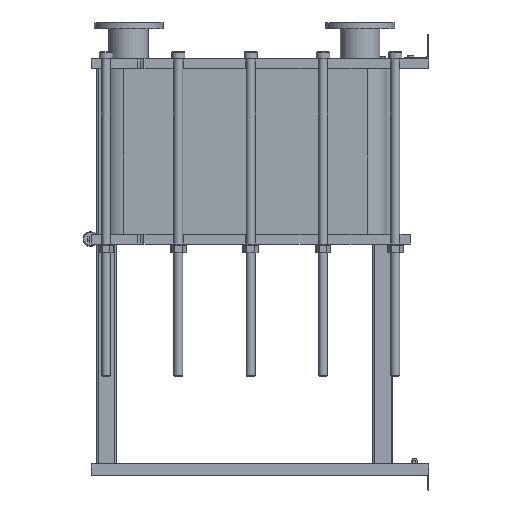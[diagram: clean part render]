
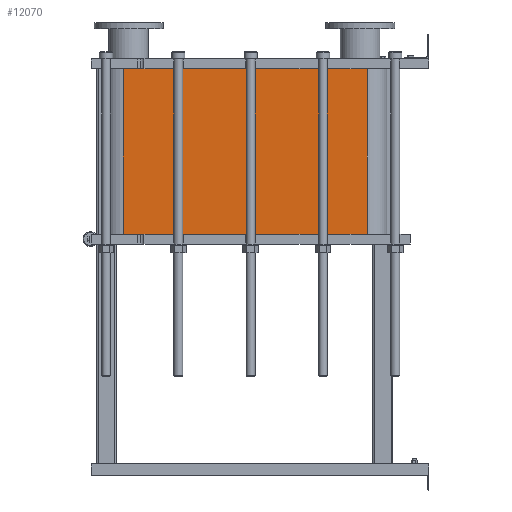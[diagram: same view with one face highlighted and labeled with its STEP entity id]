
A CAD part, left-side view. The second image highlights one B-rep face of the part: STEP entity #12070.
In plain terms, the highlighted planar face has unit normal (-1, 0, 0).
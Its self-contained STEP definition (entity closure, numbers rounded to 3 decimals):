
#1064=LINE('',#21140,#2164);
#1065=LINE('',#21144,#2165);
#1066=LINE('',#21146,#2166);
#1067=LINE('',#21147,#2167);
#2164=VECTOR('',#15790,10.);
#2165=VECTOR('',#15795,10.);
#2166=VECTOR('',#15796,10.);
#2167=VECTOR('',#15797,10.);
#3304=FACE_OUTER_BOUND('',#4091,.T.);
#4091=EDGE_LOOP('',(#9793,#9794,#9795,#9796));
#5677=VERTEX_POINT('',#21137);
#5678=VERTEX_POINT('',#21139);
#5679=VERTEX_POINT('',#21143);
#5680=VERTEX_POINT('',#21145);
#7118=EDGE_CURVE('',#5678,#5677,#1064,.T.);
#7120=EDGE_CURVE('',#5677,#5679,#1065,.T.);
#7121=EDGE_CURVE('',#5680,#5679,#1066,.T.);
#7122=EDGE_CURVE('',#5680,#5678,#1067,.T.);
#9793=ORIENTED_EDGE('',*,*,#7120,.T.);
#9794=ORIENTED_EDGE('',*,*,#7121,.F.);
#9795=ORIENTED_EDGE('',*,*,#7122,.T.);
#9796=ORIENTED_EDGE('',*,*,#7118,.T.);
#11441=PLANE('',#13191);
#12070=ADVANCED_FACE('',(#3304),#11441,.T.);
#13191=AXIS2_PLACEMENT_3D('',#21142,#15793,#15794);
#15790=DIRECTION('',(0.,0.,-1.));
#15793=DIRECTION('center_axis',(-1.,0.,0.));
#15794=DIRECTION('ref_axis',(0.,1.,0.));
#15795=DIRECTION('',(0.,-1.,0.));
#15796=DIRECTION('',(0.,0.,-1.));
#15797=DIRECTION('',(0.,1.,0.));
#21137=CARTESIAN_POINT('',(-248.152,1243.818,-672.75));
#21139=CARTESIAN_POINT('',(-248.152,1243.818,0.));
#21140=CARTESIAN_POINT('',(-248.152,1243.818,0.));
#21142=CARTESIAN_POINT('Origin',(-248.152,251.818,0.));
#21143=CARTESIAN_POINT('',(-248.152,251.818,-672.75));
#21144=CARTESIAN_POINT('',(-248.152,499.818,-672.75));
#21145=CARTESIAN_POINT('',(-248.152,251.818,0.));
#21146=CARTESIAN_POINT('',(-248.152,251.818,0.));
#21147=CARTESIAN_POINT('',(-248.152,251.818,0.));
